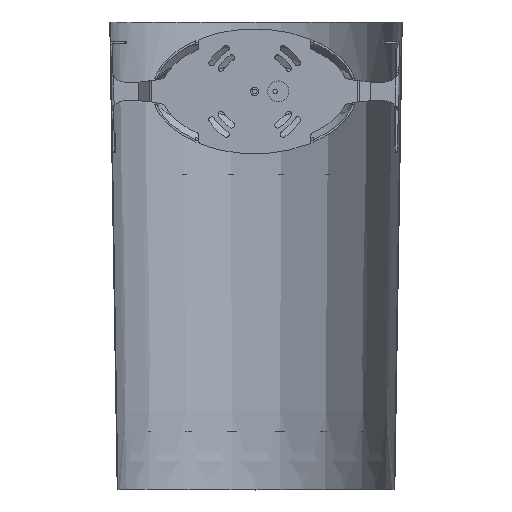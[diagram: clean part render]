
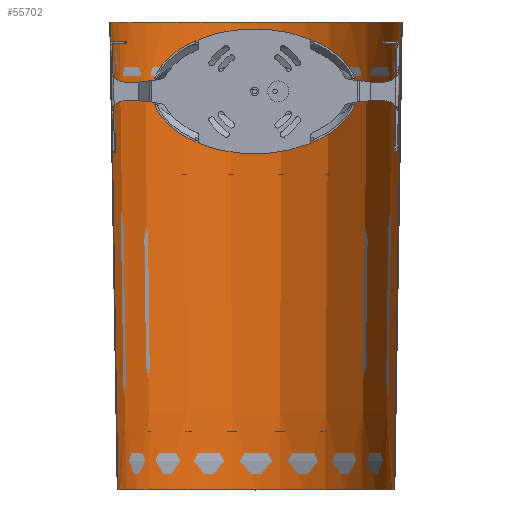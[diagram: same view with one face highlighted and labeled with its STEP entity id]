
A CAD part, top view. The second image highlights one B-rep face of the part: STEP entity #55702.
In plain terms, the highlighted conical face has half-angle 0.91 degrees and reference radius 118.046 mm.
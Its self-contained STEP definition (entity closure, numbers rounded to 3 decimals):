
#800 = CARTESIAN_POINT ( 'NONE',  ( -8.142, 70.761, -13.202 ) ) ;
#1178 = ORIENTED_EDGE ( 'NONE', *, *, #29964, .F. ) ;
#1577 = EDGE_LOOP ( 'NONE', ( #36840, #1178, #47204, #60191 ) ) ;
#5126 = CARTESIAN_POINT ( 'NONE',  ( -8.142, -7761.091, -23.395 ) ) ;
#6447 = CIRCLE ( 'NONE', #55321, 118.046 ) ;
#6498 = LINE ( 'NONE', #31283, #65639 ) ;
#7441 = CARTESIAN_POINT ( 'NONE',  ( -126.188, -329.239, -13.722 ) ) ;
#8692 = EDGE_CURVE ( 'NONE', #24062, #30339, #6447, .T. ) ;
#11978 = AXIS2_PLACEMENT_3D ( 'NONE', #16357, #26890, #16705 ) ;
#13374 = EDGE_CURVE ( 'NONE', #30339, #21468, #36690, .T. ) ;
#14125 = CARTESIAN_POINT ( 'NONE',  ( -8.142, -329.239, -13.722 ) ) ;
#16010 = FACE_OUTER_BOUND ( 'NONE', #1577, .T. ) ;
#16357 = CARTESIAN_POINT ( 'NONE',  ( -8.142, -329.239, -13.722 ) ) ;
#16705 = DIRECTION ( 'NONE',  ( 1., 0., 0. ) ) ;
#18423 = CARTESIAN_POINT ( 'NONE',  ( 109.905, -329.239, -13.722 ) ) ;
#21468 = VERTEX_POINT ( 'NONE', #28634 ) ;
#21724 = CONICAL_SURFACE ( 'NONE', #11978, 118.046, 0.016 ) ;
#24062 = VERTEX_POINT ( 'NONE', #7441 ) ;
#26890 = DIRECTION ( 'NONE',  ( 0., 1., 0.001 ) ) ;
#26923 = DIRECTION ( 'NONE',  ( -1., 0., 0. ) ) ;
#28597 = CARTESIAN_POINT ( 'NONE',  ( -132.542, 70.761, -13.202 ) ) ;
#28634 = CARTESIAN_POINT ( 'NONE',  ( 116.258, 70.761, -13.202 ) ) ;
#29964 = EDGE_CURVE ( 'NONE', #56070, #21468, #57956, .T. ) ;
#30339 = VERTEX_POINT ( 'NONE', #18423 ) ;
#31283 = CARTESIAN_POINT ( 'NONE',  ( -8.142, -7761.091, -23.395 ) ) ;
#34185 = DIRECTION ( 'NONE',  ( 0., -1., -0.001 ) ) ;
#36690 = LINE ( 'NONE', #5126, #58150 ) ;
#36840 = ORIENTED_EDGE ( 'NONE', *, *, #13374, .T. ) ;
#47204 = ORIENTED_EDGE ( 'NONE', *, *, #63547, .F. ) ;
#51710 = DIRECTION ( 'NONE',  ( -0.016, 1., 0.001 ) ) ;
#55294 = DIRECTION ( 'NONE',  ( -1., 0., 0. ) ) ;
#55321 = AXIS2_PLACEMENT_3D ( 'NONE', #14125, #34185, #55294 ) ;
#55702 = ADVANCED_FACE ( 'NONE', ( #16010 ), #21724, .F. ) ;
#56070 = VERTEX_POINT ( 'NONE', #28597 ) ;
#57471 = DIRECTION ( 'NONE',  ( 0.016, 1., 0.001 ) ) ;
#57569 = DIRECTION ( 'NONE',  ( 0., -1., -0.001 ) ) ;
#57956 = CIRCLE ( 'NONE', #64502, 124.4 ) ;
#58150 = VECTOR ( 'NONE', #57471, 1000. ) ;
#60191 = ORIENTED_EDGE ( 'NONE', *, *, #8692, .T. ) ;
#63547 = EDGE_CURVE ( 'NONE', #24062, #56070, #6498, .T. ) ;
#64502 = AXIS2_PLACEMENT_3D ( 'NONE', #800, #57569, #26923 ) ;
#65639 = VECTOR ( 'NONE', #51710, 1000. ) ;
